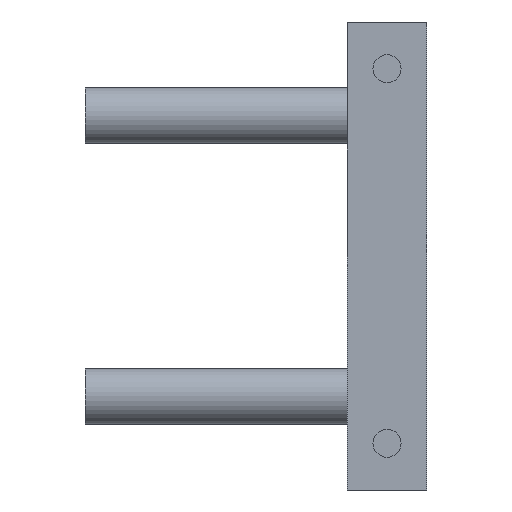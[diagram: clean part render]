
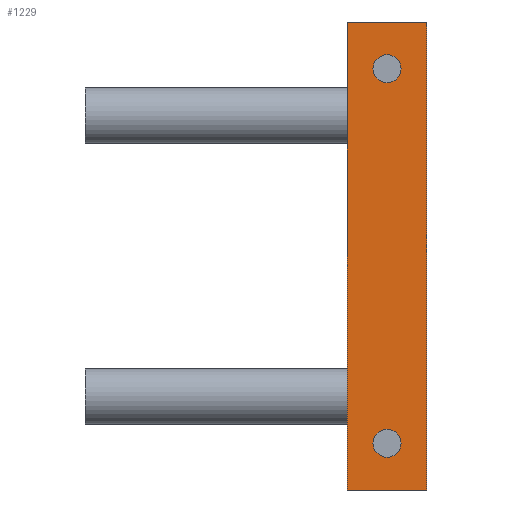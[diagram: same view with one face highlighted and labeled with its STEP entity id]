
A CAD part, left-side view. The second image highlights one B-rep face of the part: STEP entity #1229.
In plain terms, the highlighted planar face has unit normal (-1, 0, 0).
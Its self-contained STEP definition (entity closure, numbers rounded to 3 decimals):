
#47=FACE_BOUND('',#276,.T.);
#48=FACE_BOUND('',#277,.T.);
#91=PLANE('',#1388);
#168=FACE_OUTER_BOUND('',#275,.T.);
#275=EDGE_LOOP('',(#1115,#1116,#1117,#1118));
#276=EDGE_LOOP('',(#1119));
#277=EDGE_LOOP('',(#1120));
#300=LINE('',#1832,#393);
#357=LINE('',#2072,#450);
#367=LINE('',#2112,#460);
#370=LINE('',#2117,#463);
#393=VECTOR('',#1439,10.);
#450=VECTOR('',#1716,10.);
#460=VECTOR('',#1764,10.);
#463=VECTOR('',#1771,10.);
#519=CIRCLE('',#1359,1.5);
#521=CIRCLE('',#1363,1.5);
#551=VERTEX_POINT('',#1828);
#553=VERTEX_POINT('',#1831);
#621=VERTEX_POINT('',#2056);
#623=VERTEX_POINT('',#2063);
#625=VERTEX_POINT('',#2070);
#626=VERTEX_POINT('',#2071);
#664=EDGE_CURVE('',#553,#551,#300,.T.);
#770=EDGE_CURVE('',#621,#621,#519,.T.);
#773=EDGE_CURVE('',#623,#623,#521,.T.);
#776=EDGE_CURVE('',#625,#626,#357,.T.);
#795=EDGE_CURVE('',#553,#625,#367,.T.);
#798=EDGE_CURVE('',#551,#626,#370,.T.);
#1115=ORIENTED_EDGE('',*,*,#664,.T.);
#1116=ORIENTED_EDGE('',*,*,#798,.T.);
#1117=ORIENTED_EDGE('',*,*,#776,.F.);
#1118=ORIENTED_EDGE('',*,*,#795,.F.);
#1119=ORIENTED_EDGE('',*,*,#770,.T.);
#1120=ORIENTED_EDGE('',*,*,#773,.T.);
#1229=ADVANCED_FACE('',(#168,#47,#48),#91,.T.);
#1359=AXIS2_PLACEMENT_3D('',#2057,#1698,#1699);
#1363=AXIS2_PLACEMENT_3D('',#2064,#1707,#1708);
#1388=AXIS2_PLACEMENT_3D('',#2118,#1772,#1773);
#1439=DIRECTION('',(0.,0.,1.));
#1698=DIRECTION('center_axis',(1.,0.,0.));
#1699=DIRECTION('ref_axis',(0.,-1.,0.));
#1707=DIRECTION('center_axis',(1.,0.,0.));
#1708=DIRECTION('ref_axis',(0.,-1.,0.));
#1716=DIRECTION('',(0.,0.,1.));
#1764=DIRECTION('',(0.,1.,0.));
#1771=DIRECTION('',(0.,1.,0.));
#1772=DIRECTION('center_axis',(-1.,0.,0.));
#1773=DIRECTION('ref_axis',(0.,0.,1.));
#1828=CARTESIAN_POINT('',(9.493,0.,-11.672));
#1831=CARTESIAN_POINT('',(9.493,0.,-61.672));
#1832=CARTESIAN_POINT('',(9.493,0.,-61.672));
#2056=CARTESIAN_POINT('',(9.493,5.75,-56.672));
#2057=CARTESIAN_POINT('Origin',(9.493,4.25,-56.672));
#2063=CARTESIAN_POINT('',(9.493,5.75,-16.672));
#2064=CARTESIAN_POINT('Origin',(9.493,4.25,-16.672));
#2070=CARTESIAN_POINT('',(9.493,8.5,-61.672));
#2071=CARTESIAN_POINT('',(9.493,8.5,-11.672));
#2072=CARTESIAN_POINT('',(9.493,8.5,-61.672));
#2112=CARTESIAN_POINT('',(9.493,0.,-61.672));
#2117=CARTESIAN_POINT('',(9.493,0.,-11.672));
#2118=CARTESIAN_POINT('Origin',(9.493,0.,-61.672));
